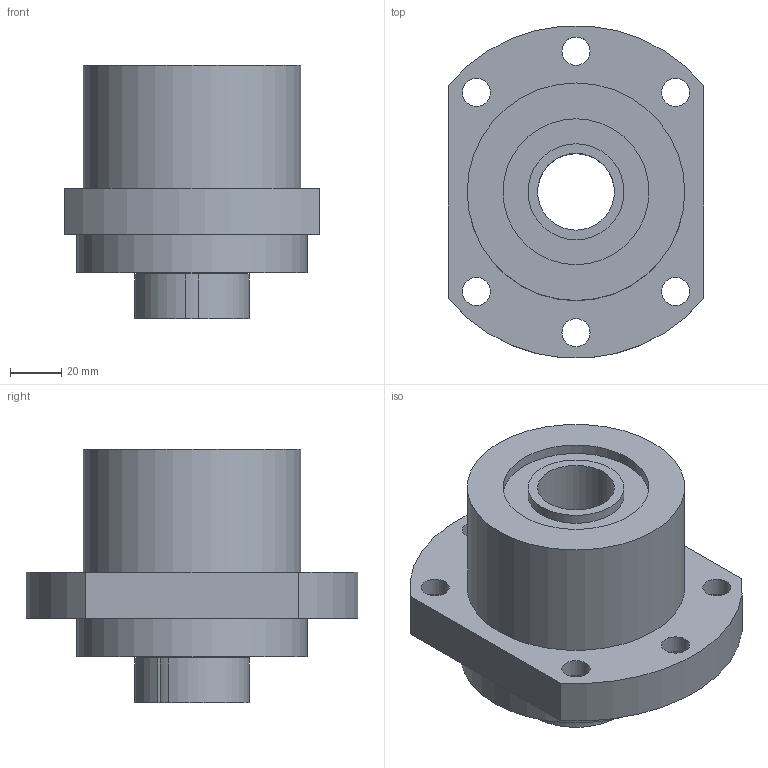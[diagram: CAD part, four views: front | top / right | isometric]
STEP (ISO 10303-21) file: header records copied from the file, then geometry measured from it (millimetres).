
FILE_DESCRIPTION(/* description */ (''),/* implementation_level */ '2;1');
FILE_NAME(/* name */ 'C:\Users\tenki620635\Desktop\官網\圖面\軸承座\3D\setp檔\WBK30 DFD.stp',/* time_stamp */ '2020-12-21T10:01:02+08:00',/* author */ ('tenki620635'),/* organization */ (''),/* preprocessor_version */ 'ST-DEVELOPER v15.2',/* originating_system */ 'Autodesk Inventor 2014',/* authorisation */ '');
FILE_SCHEMA (('AUTOMOTIVE_DESIGN { 1 0 10303 214 3 1 1 }'));
Length unit declared in the file: millimetre
Products named in the file (1): WBK30 DFD-Atype
Bounding box: 100 x 129.59 x 99 mm (x, y, z)
Volume: 502481.7 mm3; surface area: 65144.4 mm2
Topology: 1 solids, 1 shells, 52 faces, 108 edges, 72 vertices
Faces by surface type: cylinder 28, plane 24
Full cylindrical faces by diameter (mm): 11 x6, 17.5 x6, 30 x1, 37.5 x2, 40 x1, 57 x2, 85 x1, 90 x1
Entity records: 1357 total; most frequent: DIRECTION 250, CARTESIAN_POINT 213, ORIENTED_EDGE 176, AXIS2_PLACEMENT_3D 109, EDGE_LOOP 100, EDGE_CURVE 88, VERTEX_POINT 72, CIRCLE 56
